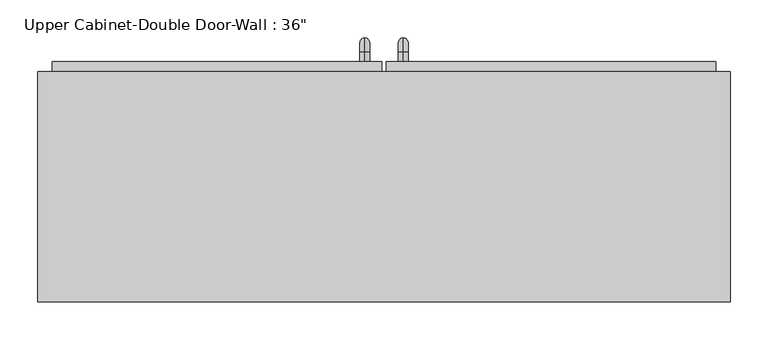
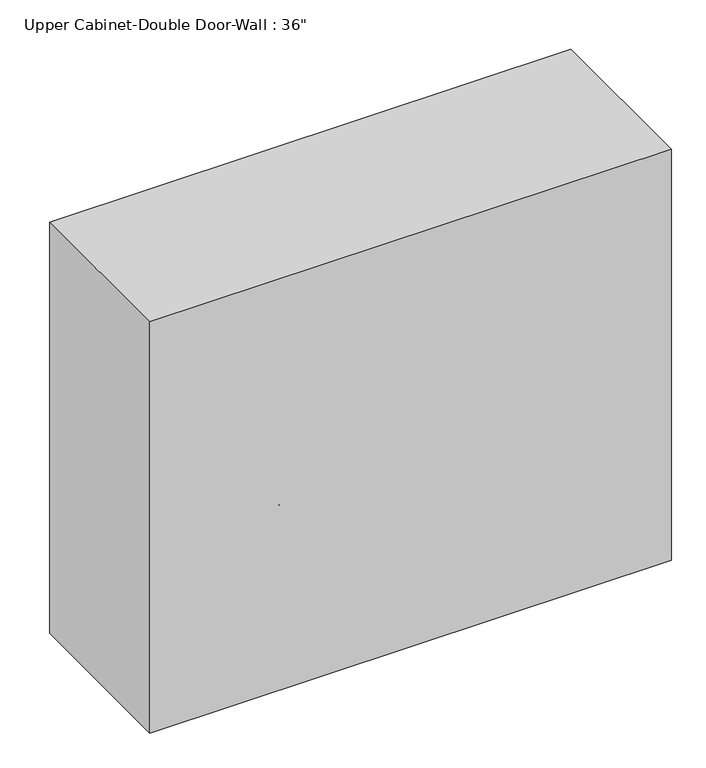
"""IFC4 building model written with IfcOpenShell, lengths in millimetres: furniture geometry."""

import ifcopenshell
import ifcopenshell.guid

model = None  # the IFC model being written
_history = None  # IfcOwnerHistory: only IFC2X3 demands one
_inside = {}  # id of a spatial element -> (the spatial element, [elements in it])
_under = {}  # id of a project, library or spatial element -> (it, [spatial elements below it])
_declared = {}  # id of a project -> (the project, [libraries it declares])
_typed = {}  # id of a type object -> (the type object, [elements of that type])
_made_of = {}  # id of a material, layer set ... -> (it, [elements and type objects made of it])


def new_model(schema):
    """Start an empty IFC model of exactly this schema.

    Asked for "IFC4X3", IfcOpenShell would pick the latest addendum, in which some entities
    have other attributes; the version numbers below select the first issue.
    IFC2X3 requires an IfcOwnerHistory on every rooted entity: one is made here for all.
    """
    global model, _history
    if schema == "IFC4X3":
        model = ifcopenshell.file(schema_version=(4, 3, 0, 0))
    else:
        model = ifcopenshell.file(schema=schema)
    _inside.clear()
    _under.clear()
    _declared.clear()
    _typed.clear()
    _made_of.clear()
    _history = None
    if model.schema == "IFC2X3":
        org = make("IfcOrganization", Name="unknown")
        user = make(
            "IfcPersonAndOrganization",
            ThePerson=make("IfcPerson", FamilyName="unknown"),
            TheOrganization=org,
        )
        app = make(
            "IfcApplication",
            ApplicationDeveloper=org,
            Version="unknown",
            ApplicationFullName="unknown",
            ApplicationIdentifier="unknown",
        )
        _history = make(
            "IfcOwnerHistory",
            OwningUser=user,
            OwningApplication=app,
            ChangeAction="ADDED",
            CreationDate=0,
        )
    return model


def make(cls, **values):
    """One entity of the class cls with the attributes given. An attribute that is None is left unset."""
    return model.create_entity(
        cls, **{name: value for name, value in values.items() if value is not None}
    )


def rooted(cls, **values):
    """An entity with a GlobalId (a new one), such as an element, a storey or a relation."""
    return make(cls, GlobalId=ifcopenshell.guid.new(), OwnerHistory=_history, **values)


def si_unit(unit_type, name, prefix=None):
    """IfcSIUnit, for example si_unit("LENGTHUNIT", "METRE", prefix="MILLI")."""
    return make("IfcSIUnit", UnitType=unit_type, Prefix=prefix, Name=name)


def assignment(units):
    """IfcUnitAssignment: the units of a project."""
    return None if units is None else make("IfcUnitAssignment", Units=units)


def point(xyz):
    """IfcCartesianPoint."""
    return None if xyz is None else make("IfcCartesianPoint", Coordinates=xyz)


def direction(xyz):
    """IfcDirection."""
    return None if xyz is None else make("IfcDirection", DirectionRatios=xyz)


def frame(location, z_axis=None, x_axis=None):
    """IfcAxis2Placement3D, a coordinate frame: its origin and axes. An axis left out is left unset."""
    return make(
        "IfcAxis2Placement3D",
        Location=point(location),
        Axis=direction(z_axis),
        RefDirection=direction(x_axis),
    )


def origin():
    """The frame at (0, 0, 0) with its axes left unset."""
    return frame((0.0, 0.0, 0.0))


def place(relative_to, where):
    """IfcLocalPlacement: puts the frame where relative to a parent placement (None: the world)."""
    return make(
        "IfcLocalPlacement", PlacementRelTo=relative_to, RelativePlacement=where
    )


def context(
    kind, dimensions, precision=None, world=None, true_north=None, identifier=None
):
    """IfcGeometricRepresentationContext, for example the 3D "Model" context."""
    return make(
        "IfcGeometricRepresentationContext",
        ContextIdentifier=identifier,
        ContextType=kind,
        CoordinateSpaceDimension=dimensions,
        Precision=precision,
        WorldCoordinateSystem=world,
        TrueNorth=true_north,
    )


def project(units=None, contexts=None):
    """IfcProject with its units and contexts."""
    return rooted(
        "IfcProject",
        Name="project",
        RepresentationContexts=contexts,
        UnitsInContext=assignment(units),
    )


def spatial(cls, under=None, at=None, **own):
    """A site, building, storey or space (cls), placed at a placement, below another one or the project."""
    s = rooted(cls, ObjectPlacement=at, **own)
    if under is not None:
        _under.setdefault(under.id(), (under, []))[1].append(s)
    return s


def polyline(points):
    """IfcPolyline through the points."""
    return make("IfcPolyline", Points=[point(p) for p in points])


def circle_curve(where, radius):
    """IfcCircle in the frame where."""
    return make("IfcCircle", Position=where, Radius=radius)


def ellipse_curve(where, semi_axis1, semi_axis2):
    """IfcEllipse in the frame where."""
    return make(
        "IfcEllipse", Position=where, SemiAxis1=semi_axis1, SemiAxis2=semi_axis2
    )


def trimmed(basis, trim1, trim2, sense, master):
    """IfcTrimmedCurve: the piece of a basis curve between two trims."""
    return make(
        "IfcTrimmedCurve",
        BasisCurve=basis,
        Trim1=trim1,
        Trim2=trim2,
        SenseAgreement=sense,
        MasterRepresentation=master,
    )


def outline(outer, holes=None, kind="AREA"):
    """IfcArbitraryClosedProfileDef: a profile drawn as a closed curve; with holes, ...WithVoids."""
    if holes is None:
        return make("IfcArbitraryClosedProfileDef", ProfileType=kind, OuterCurve=outer)
    return make(
        "IfcArbitraryProfileDefWithVoids",
        ProfileType=kind,
        OuterCurve=outer,
        InnerCurves=holes,
    )


def extrude(swept, where, along, depth):
    """IfcExtrudedAreaSolid: the profile swept, set in the frame where, extruded along a direction by depth."""
    return make(
        "IfcExtrudedAreaSolid",
        SweptArea=swept,
        Position=where,
        ExtrudedDirection=direction(along),
        Depth=depth,
    )


def faces_of(points, faces, orient=None, outer=None):
    """IfcFace entities. A face is a list of loops; a loop is a list of indices into points, from 0.

    orient and outer hold one flag for each loop. By default every Orientation is true, the
    first loop of a face is its IfcFaceOuterBound and the others are IfcFaceBound.
    """
    made = []
    for i, loops in enumerate(faces):
        bounds = []
        for j, loop in enumerate(loops):
            is_outer = j == 0 if outer is None else outer[i][j]
            bounds.append(
                make(
                    "IfcFaceOuterBound" if is_outer else "IfcFaceBound",
                    Bound=make("IfcPolyLoop", Polygon=[points[k] for k in loop]),
                    Orientation=True if orient is None else orient[i][j],
                )
            )
        made.append(make("IfcFace", Bounds=bounds))
    return made


def faceted_brep(points, faces, orient=None, outer=None, voids=None):
    """IfcFacetedBrep: a solid bounded by flat faces; with voids (closed shells), ...WithVoids."""
    shared = [point(p) for p in points]
    hull = make("IfcClosedShell", CfsFaces=faces_of(shared, faces, orient, outer))
    if voids is None:
        return make("IfcFacetedBrep", Outer=hull)
    return make(
        "IfcFacetedBrepWithVoids",
        Outer=hull,
        Voids=[
            make(cls, CfsFaces=faces_of(shared, fs, o, b)) for cls, fs, o, b in voids
        ],
    )


def shape(context_of_items, identifier, shape_type, items):
    """IfcShapeRepresentation: the items that make up one representation, for example the "Body"."""
    return make(
        "IfcShapeRepresentation",
        ContextOfItems=context_of_items,
        RepresentationIdentifier=identifier,
        RepresentationType=shape_type,
        Items=items,
    )


def source(mapping_origin, context_of_items, identifier, shape_type, items):
    """IfcRepresentationMap: a shape defined once, which mapped items show again and again."""
    return make(
        "IfcRepresentationMap",
        MappingOrigin=mapping_origin,
        MappedRepresentation=shape(context_of_items, identifier, shape_type, items),
    )


def transform(
    local_origin,
    x_axis=None,
    y_axis=None,
    z_axis=None,
    scale=None,
    scale2=None,
    scale3=None,
    uniform=True,
):
    """IfcCartesianTransformationOperator3D, or its non-uniform kind. x_axis, y_axis, z_axis: its Axis1, 2, 3."""
    if uniform:
        return make(
            "IfcCartesianTransformationOperator3D",
            Axis1=direction(x_axis),
            Axis2=direction(y_axis),
            LocalOrigin=point(local_origin),
            Scale=scale,
            Axis3=direction(z_axis),
        )
    return make(
        "IfcCartesianTransformationOperator3DnonUniform",
        Axis1=direction(x_axis),
        Axis2=direction(y_axis),
        LocalOrigin=point(local_origin),
        Scale=scale,
        Axis3=direction(z_axis),
        Scale2=scale2,
        Scale3=scale3,
    )


def mapped(mapping_source, mapping_target):
    """IfcMappedItem: shows the shape of a source again, moved by a transform."""
    return make(
        "IfcMappedItem", MappingSource=mapping_source, MappingTarget=mapping_target
    )


def made_of(thing, what):
    """Note that an element or type object is made of a material, layer set ...; save() writes the relation."""
    if what is not None:
        _made_of.setdefault(what.id(), (what, []))[1].append(thing)
    return thing


def element(
    cls,
    number,
    at=None,
    inside=None,
    cuts=None,
    type_object=None,
    material=None,
    context=None,
    identifier="Body",
    shape_type=None,
    held_by="IfcProductDefinitionShape",
    body=None,
    shapes=None,
    **own,
):
    """One element of the class cls, such as IfcWall. Its Tag is "e" and its number.

    at: its placement. inside: the storey or other place that contains it. cuts: it is an
    opening in that element (IfcRelVoidsElement). A single representation is given by context,
    identifier, shape_type and body (its items); several are given by shapes. held_by: the class
    of the entity that holds the representations. save() writes the other relations.
    """
    e = rooted(cls, Tag="e%d" % number, ObjectPlacement=at, **own)
    if body is not None:
        shapes = [shape(context, identifier, shape_type, body)]
    if shapes is not None:
        e.Representation = make(held_by, Representations=shapes)
    if inside is not None:
        _inside.setdefault(inside.id(), (inside, []))[1].append(e)
    if cuts is not None:
        rooted(
            "IfcRelVoidsElement", RelatingBuildingElement=cuts, RelatedOpeningElement=e
        )
    if type_object is not None:
        _typed.setdefault(type_object.id(), (type_object, []))[1].append(e)
    return made_of(e, material)


def aggregate(whole, parts):
    """IfcRelAggregates: a whole, such as a stair, and the parts it consists of."""
    return rooted("IfcRelAggregates", RelatingObject=whole, RelatedObjects=parts)


def save(model, path):
    """Write the relations noted so far, then the file.

    IfcRelAggregates (storeys below a building ...), IfcRelContainedInSpatialStructure (elements
    in a storey), IfcRelDefinesByType, IfcRelAssociatesMaterial and IfcRelDeclares: one each for
    every whole, place, type object, material and project.
    """
    for whole, parts in _under.values():
        aggregate(whole, parts)
    for where, things in _inside.values():
        rooted(
            "IfcRelContainedInSpatialStructure",
            RelatedElements=things,
            RelatingStructure=where,
        )
    for kind, things in _typed.values():
        rooted("IfcRelDefinesByType", RelatedObjects=things, RelatingType=kind)
    for what, things in _made_of.values():
        rooted("IfcRelAssociatesMaterial", RelatedObjects=things, RelatingMaterial=what)
    for by, libraries in _declared.values():
        rooted("IfcRelDeclares", RelatingContext=by, RelatedDefinitions=libraries)
    model.write(path)


def plane_surface(at):
    """IfcPlane: the flat surface through the origin of the frame at, square to its z axis."""
    return make("IfcPlane", Position=at)


def cylinder_surface(at, radius):
    """IfcCylindricalSurface: all points at the distance radius from the z axis of the frame at."""
    return make("IfcCylindricalSurface", Position=at, Radius=radius)


def revolved_surface(curve, axis_point, axis_direction):
    """IfcSurfaceOfRevolution: the curve turned about the line through axis_point along axis_direction."""
    return make(
        "IfcSurfaceOfRevolution",
        SweptCurve=make("IfcArbitraryOpenProfileDef", ProfileType="CURVE", Curve=curve),
        AxisPosition=make("IfcAxis1Placement", Location=point(axis_point), Axis=direction(axis_direction)),
    )


def advanced_brep(points, edges, surfaces, faces):
    """IfcAdvancedBrep: a solid bounded by faces that lie on surfaces and meet in shared edges.

    An edge is (start, end): straight between two places in points (the first is 0);
    or (start, end, curve); or (start, end, curve, False) where it runs against its curve.
    A face is (place in surfaces, loops), or (place, loops, False) where it looks against
    its surface's normal. A loop lists edges by number (the first is 1), with a minus sign
    where the edge is run from its end to its start. The first loop is the outer one.
    """
    corners = [point(p) for p in points]
    vertices = [make("IfcVertexPoint", VertexGeometry=c) for c in corners]
    made = []
    for start, end, *more in edges:
        made.append(
            make(
                "IfcEdgeCurve",
                EdgeStart=vertices[start],
                EdgeEnd=vertices[end],
                EdgeGeometry=more[0] if more else make("IfcPolyline", Points=[corners[start], corners[end]]),
                SameSense=more[1] if len(more) > 1 else True,
            )
        )
    hull = []
    for where, loops, *sense in faces:
        bounds = []
        for j, loop in enumerate(loops):
            ring = [make("IfcOrientedEdge", EdgeElement=made[abs(k) - 1], Orientation=k > 0) for k in loop]
            bounds.append(
                make(
                    "IfcFaceOuterBound" if j == 0 else "IfcFaceBound",
                    Bound=make("IfcEdgeLoop", EdgeList=ring),
                    Orientation=True,
                )
            )
        hull.append(make("IfcAdvancedFace", Bounds=bounds, FaceSurface=surfaces[where], SameSense=sense[0] if sense else True))
    return make("IfcAdvancedBrep", Outer=make("IfcClosedShell", CfsFaces=hull))


def furniture_c2f1276b(model_context):
    return source(origin(), model_context, "Body", "SolidModel", [
        faceted_brep([(-427.4288372, 25.4, 2133.6), (-427.4288372, 25.4, 1371.6), (486.9711628, 25.4, 1371.6), (486.9711628, 25.4, 2133.6), (-427.4288372, 330.2, 2133.6), (486.9711628, 330.2, 2133.6), (486.9711628, 330.2, 1371.6), (-427.4288372, 330.2, 1371.6), (-408.3788372, 330.2, 2114.55), (-408.3788372, 330.2, 1390.65), (467.9211628, 330.2, 1390.65), (467.9211628, 330.2, 2114.55), (467.9211628, 44.45, 2114.55), (-408.3788372, 44.45, 2114.55), (467.9211628, 44.45, 1390.65), (-408.3788372, 44.45, 1390.65)], [[[0, 1, 2, 3]], [[4, 5, 6, 7], [8, 9, 10, 11]], [[1, 0, 4, 7]], [[2, 1, 7, 6]], [[3, 2, 6, 5]], [[0, 3, 5, 4]], [[8, 11, 12, 13]], [[11, 10, 14, 12]], [[10, 9, 15, 14]], [[9, 8, 13, 15]], [[13, 12, 14, 15]]]),
        advanced_brep(
        [(55.1711628, 342.9, 1517.65), (55.1711628, 342.9, 1530.35), (55.1711628, 355.6, 1517.65), (55.1711628, 355.6, 1530.35), (55.1711628, 374.65, 1511.3), (55.1711628, 361.95, 1511.3), (55.1711628, 361.95, 1435.1), (55.1711628, 374.65, 1435.1), (55.1711628, 355.6, 1416.05), (55.1711628, 355.6, 1428.75), (55.1711628, 342.9, 1428.75), (55.1711628, 342.9, 1416.05)],
        [
            (0, 1, circle_curve(frame((55.1711628, 342.9, 1524.0), z_axis=(0.0, -1.0, 0.0), x_axis=(0.0, 0.0, -1.0)), 6.35)),
            (1, 0, circle_curve(frame((55.1711628, 342.9, 1524.0), z_axis=(0.0, -1.0, 0.0), x_axis=(0.0, 0.0, -1.0)), 6.35)),
            (0, 2),
            (2, 3, circle_curve(frame((55.1711628, 355.6, 1524.0), z_axis=(0.0, -1.0, 0.0), x_axis=(0.0, 0.0, -1.0)), 6.35)),
            (3, 1),
            (3, 2, circle_curve(frame((55.1711628, 355.6, 1524.0), z_axis=(0.0, -1.0, 0.0), x_axis=(0.0, 0.0, -1.0)), 6.35)),
            (4, 3, circle_curve(frame((55.1711628, 355.6, 1511.3), z_axis=(1.0, 0.0, 0.0), x_axis=(0.0, 0.0, 1.0)), 19.05)),
            (2, 5, circle_curve(frame((55.1711628, 355.6, 1511.3), z_axis=(-1.0, 0.0, 0.0), x_axis=(0.0, 0.0, 1.0)), 6.35)),
            (5, 4, circle_curve(frame((55.1711628, 368.3, 1511.3), z_axis=(0.0, 0.0, 1.0), x_axis=(0.0, -1.0, 0.0)), 6.35)),
            (4, 5, circle_curve(frame((55.1711628, 368.3, 1511.3), z_axis=(0.0, 0.0, 1.0), x_axis=(0.0, -1.0, 0.0)), 6.35)),
            (5, 6),
            (6, 7, circle_curve(frame((55.1711628, 368.3, 1435.1), z_axis=(0.0, 0.0, 1.0), x_axis=(0.0, -1.0, 0.0)), 6.35)),
            (7, 4),
            (7, 6, circle_curve(frame((55.1711628, 368.3, 1435.1), z_axis=(0.0, 0.0, 1.0), x_axis=(0.0, -1.0, 0.0)), 6.35)),
            (8, 7, circle_curve(frame((55.1711628, 355.6, 1435.1), z_axis=(1.0, 0.0, 0.0), x_axis=(0.0, 1.0, 0.0)), 19.05)),
            (6, 9, circle_curve(frame((55.1711628, 355.6, 1435.1), z_axis=(-1.0, 0.0, 0.0), x_axis=(0.0, 1.0, 0.0)), 6.35)),
            (9, 8, circle_curve(frame((55.1711628, 355.6, 1422.4), z_axis=(0.0, 1.0, 0.0), x_axis=(0.0, 0.0, 1.0)), 6.35)),
            (8, 9, circle_curve(frame((55.1711628, 355.6, 1422.4), z_axis=(0.0, 1.0, 0.0), x_axis=(0.0, 0.0, 1.0)), 6.35)),
            (10, 11, circle_curve(frame((55.1711628, 342.9, 1422.4), z_axis=(0.0, -1.0, 0.0), x_axis=(0.0, 0.0, 1.0)), 6.35)),
            (11, 10, circle_curve(frame((55.1711628, 342.9, 1422.4), z_axis=(0.0, -1.0, 0.0), x_axis=(0.0, 0.0, 1.0)), 6.35)),
            (9, 10),
            (11, 8),
        ],
        [
            plane_surface(frame((48.8211628, 342.9, 1524.0), z_axis=(0.0, -1.0, 0.0), x_axis=(0.0, 0.0, 1.0))),
            cylinder_surface(frame((55.1711628, 342.9, 1524.0), z_axis=(0.0, -1.0, 0.0), x_axis=(0.0, 0.0, -1.0)), 6.35),
            revolved_surface(trimmed(ellipse_curve(frame((55.1711628, 355.6, 1524.0), z_axis=(0.0, -1.0, 0.0), x_axis=(0.0, 0.0, -1.0)), 6.35, 6.35), [point((55.1711628, 355.6, 1517.65))], [point((55.1711628, 355.6, 1530.35))], True, "CARTESIAN"), (55.1711628, 355.6, 1511.3), (-1.0, 0.0, 0.0)),
            revolved_surface(trimmed(ellipse_curve(frame((55.1711628, 355.6, 1524.0), z_axis=(0.0, -1.0, 0.0), x_axis=(0.0, 0.0, -1.0)), 6.35, 6.35), [point((55.1711628, 355.6, 1530.35))], [point((55.1711628, 355.6, 1517.65))], True, "CARTESIAN"), (55.1711628, 355.6, 1511.3), (-1.0, 0.0, 0.0)),
            cylinder_surface(frame((55.1711628, 368.3, 1511.3), z_axis=(0.0, 0.0, 1.0), x_axis=(0.0, -1.0, 0.0)), 6.35),
            revolved_surface(trimmed(ellipse_curve(frame((55.1711628, 368.3, 1435.1), z_axis=(0.0, 0.0, 1.0), x_axis=(0.0, -1.0, 0.0)), 6.35, 6.35), [point((55.1711628, 361.95, 1435.1))], [point((55.1711628, 374.65, 1435.1))], True, "CARTESIAN"), (55.1711628, 355.6, 1435.1), (-1.0, 0.0, 0.0)),
            revolved_surface(trimmed(ellipse_curve(frame((55.1711628, 368.3, 1435.1), z_axis=(0.0, 0.0, 1.0), x_axis=(0.0, -1.0, 0.0)), 6.35, 6.35), [point((55.1711628, 374.65, 1435.1))], [point((55.1711628, 361.95, 1435.1))], True, "CARTESIAN"), (55.1711628, 355.6, 1435.1), (-1.0, 0.0, 0.0)),
            plane_surface(frame((48.8211628, 342.9, 1422.4), z_axis=(0.0, -1.0, 0.0), x_axis=(0.0, 0.0, -1.0))),
            cylinder_surface(frame((55.1711628, 355.6, 1422.4), z_axis=(0.0, 1.0, 0.0), x_axis=(0.0, 0.0, 1.0)), 6.35),
        ],
        [
            (0, [[1, 2]]),
            (1, [[-1, 3, 4, 5]]),
            (1, [[-2, -5, 6, -3]]),
            (2, [[7, -4, 8, 9]]),
            (3, [[-8, -6, -7, 10]]),
            (4, [[-9, 11, 12, 13]]),
            (4, [[-10, -13, 14, -11]]),
            (5, [[15, -12, 16, 17]]),
            (6, [[-16, -14, -15, 18]]),
            (7, [[19, 20]]),
            (8, [[-17, 21, -20, 22]]),
            (8, [[-18, -22, -19, -21]]),
        ],
    ),
        advanced_brep(
        [(4.3711628, 342.9, 1517.65), (4.3711628, 342.9, 1530.35), (4.3711628, 355.6, 1517.65), (4.3711628, 355.6, 1530.35), (4.3711628, 374.65, 1511.3), (4.3711628, 361.95, 1511.3), (4.3711628, 361.95, 1435.1), (4.3711628, 374.65, 1435.1), (4.3711628, 355.6, 1416.05), (4.3711628, 355.6, 1428.75), (4.3711628, 342.9, 1428.75), (4.3711628, 342.9, 1416.05)],
        [
            (0, 1, circle_curve(frame((4.3711628, 342.9, 1524.0), z_axis=(0.0, -1.0, 0.0), x_axis=(0.0, 0.0, 1.0)), 6.35)),
            (1, 0, circle_curve(frame((4.3711628, 342.9, 1524.0), z_axis=(0.0, -1.0, 0.0), x_axis=(0.0, 0.0, 1.0)), 6.35)),
            (0, 2),
            (2, 3, circle_curve(frame((4.3711628, 355.6, 1524.0), z_axis=(0.0, -1.0, 0.0), x_axis=(0.0, 0.0, 1.0)), 6.35)),
            (3, 1),
            (3, 2, circle_curve(frame((4.3711628, 355.6, 1524.0), z_axis=(0.0, -1.0, 0.0), x_axis=(0.0, 0.0, 1.0)), 6.35)),
            (4, 3, circle_curve(frame((4.3711628, 355.6, 1511.3), z_axis=(1.0, 0.0, 0.0), x_axis=(0.0, 0.0, 1.0)), 19.05)),
            (2, 5, circle_curve(frame((4.3711628, 355.6, 1511.3), z_axis=(-1.0, 0.0, 0.0), x_axis=(0.0, 0.0, 1.0)), 6.35)),
            (5, 4, circle_curve(frame((4.3711628, 368.3, 1511.3), z_axis=(0.0, 0.0, 1.0), x_axis=(0.0, 1.0, 0.0)), 6.35)),
            (4, 5, circle_curve(frame((4.3711628, 368.3, 1511.3), z_axis=(0.0, 0.0, 1.0), x_axis=(0.0, 1.0, 0.0)), 6.35)),
            (5, 6),
            (6, 7, circle_curve(frame((4.3711628, 368.3, 1435.1), z_axis=(0.0, 0.0, 1.0), x_axis=(0.0, 1.0, 0.0)), 6.35)),
            (7, 4),
            (7, 6, circle_curve(frame((4.3711628, 368.3, 1435.1), z_axis=(0.0, 0.0, 1.0), x_axis=(0.0, 1.0, 0.0)), 6.35)),
            (8, 7, circle_curve(frame((4.3711628, 355.6, 1435.1), z_axis=(1.0, 0.0, 0.0), x_axis=(0.0, 1.0, 0.0)), 19.05)),
            (6, 9, circle_curve(frame((4.3711628, 355.6, 1435.1), z_axis=(-1.0, 0.0, 0.0), x_axis=(0.0, 1.0, 0.0)), 6.35)),
            (9, 8, circle_curve(frame((4.3711628, 355.6, 1422.4), z_axis=(0.0, 1.0, 0.0), x_axis=(0.0, 0.0, -1.0)), 6.35)),
            (8, 9, circle_curve(frame((4.3711628, 355.6, 1422.4), z_axis=(0.0, 1.0, 0.0), x_axis=(0.0, 0.0, -1.0)), 6.35)),
            (10, 11, circle_curve(frame((4.3711628, 342.9, 1422.4), z_axis=(0.0, -1.0, 0.0), x_axis=(0.0, 0.0, -1.0)), 6.35)),
            (11, 10, circle_curve(frame((4.3711628, 342.9, 1422.4), z_axis=(0.0, -1.0, 0.0), x_axis=(0.0, 0.0, -1.0)), 6.35)),
            (9, 10),
            (11, 8),
        ],
        [
            plane_surface(frame((-1.9788372, 342.9, 1524.0), z_axis=(0.0, -1.0, 0.0), x_axis=(0.0, 0.0, 1.0))),
            cylinder_surface(frame((4.3711628, 342.9, 1524.0), z_axis=(0.0, -1.0, 0.0), x_axis=(0.0, 0.0, 1.0)), 6.35),
            revolved_surface(trimmed(ellipse_curve(frame((4.3711628, 355.6, 1524.0), z_axis=(0.0, -1.0, 0.0), x_axis=(0.0, 0.0, 1.0)), 6.35, 6.35), [point((4.3711628, 355.6, 1517.65))], [point((4.3711628, 355.6, 1530.35))], True, "CARTESIAN"), (4.3711628, 355.6, 1511.3), (-1.0, 0.0, 0.0)),
            revolved_surface(trimmed(ellipse_curve(frame((4.3711628, 355.6, 1524.0), z_axis=(0.0, -1.0, 0.0), x_axis=(0.0, 0.0, 1.0)), 6.35, 6.35), [point((4.3711628, 355.6, 1530.35))], [point((4.3711628, 355.6, 1517.65))], True, "CARTESIAN"), (4.3711628, 355.6, 1511.3), (-1.0, 0.0, 0.0)),
            cylinder_surface(frame((4.3711628, 368.3, 1511.3), z_axis=(0.0, 0.0, 1.0), x_axis=(0.0, 1.0, 0.0)), 6.35),
            revolved_surface(trimmed(ellipse_curve(frame((4.3711628, 368.3, 1435.1), z_axis=(0.0, 0.0, 1.0), x_axis=(0.0, 1.0, 0.0)), 6.35, 6.35), [point((4.3711628, 361.95, 1435.1))], [point((4.3711628, 374.65, 1435.1))], True, "CARTESIAN"), (4.3711628, 355.6, 1435.1), (-1.0, 0.0, 0.0)),
            revolved_surface(trimmed(ellipse_curve(frame((4.3711628, 368.3, 1435.1), z_axis=(0.0, 0.0, 1.0), x_axis=(0.0, 1.0, 0.0)), 6.35, 6.35), [point((4.3711628, 374.65, 1435.1))], [point((4.3711628, 361.95, 1435.1))], True, "CARTESIAN"), (4.3711628, 355.6, 1435.1), (-1.0, 0.0, 0.0)),
            plane_surface(frame((-1.9788372, 342.9, 1422.4), z_axis=(0.0, -1.0, 0.0), x_axis=(0.0, 0.0, -1.0))),
            cylinder_surface(frame((4.3711628, 355.6, 1422.4), z_axis=(0.0, 1.0, 0.0), x_axis=(0.0, 0.0, -1.0)), 6.35),
        ],
        [
            (0, [[1, 2]]),
            (1, [[-1, 3, 4, 5]]),
            (1, [[-2, -5, 6, -3]]),
            (2, [[7, -4, 8, 9]]),
            (3, [[-8, -6, -7, 10]]),
            (4, [[-9, 11, 12, 13]]),
            (4, [[-10, -13, 14, -11]]),
            (5, [[15, -12, 16, 17]]),
            (6, [[-16, -14, -15, 18]]),
            (7, [[19, 20]]),
            (8, [[-17, 21, -20, 22]]),
            (8, [[-18, -22, -19, -21]]),
        ],
    ),
        extrude(outline(polyline([(32.9461628, 342.9), (467.9211628, 342.9), (467.9211628, 311.15), (32.9461628, 311.15), (32.9461628, 342.9)])), frame((0.0, 0.0, 1390.65), z_axis=(0.0, 0.0, 1.0), x_axis=(1.0, 0.0, 0.0)), (0.0, 0.0, 1.0), 723.9),
        extrude(outline(polyline([(-408.3788372, 342.9), (26.5961628, 342.9), (26.5961628, 311.15), (-408.3788372, 311.15), (-408.3788372, 342.9)])), frame((0.0, 0.0, 1390.65), z_axis=(0.0, 0.0, 1.0), x_axis=(1.0, 0.0, 0.0)), (0.0, 0.0, 1.0), 723.9),
    ])


if __name__ == "__main__":
    model = new_model("IFC4")
    model_context = context("Model", 3, world=origin())
    ifc_project = project(units=[si_unit("LENGTHUNIT", "METRE", prefix="MILLI")], contexts=[model_context])
    site = spatial("IfcSite", under=ifc_project)
    building = spatial("IfcBuilding", under=site)
    placement = place(None, origin())
    furniture_shape = furniture_c2f1276b(model_context)
    element("IfcFurniture", 1, ObjectType="Upper Cabinet-Double Door-Wall : 36\"", at=placement, inside=building, context=model_context, shape_type="MappedRepresentation", body=[
        mapped(furniture_shape, transform((0.0, 0.0, 0.0), x_axis=(1.0, 0.0, 0.0), y_axis=(0.0, 1.0, 0.0), z_axis=(0.0, 0.0, 1.0))),
    ])
    save(model, "model.ifc")
